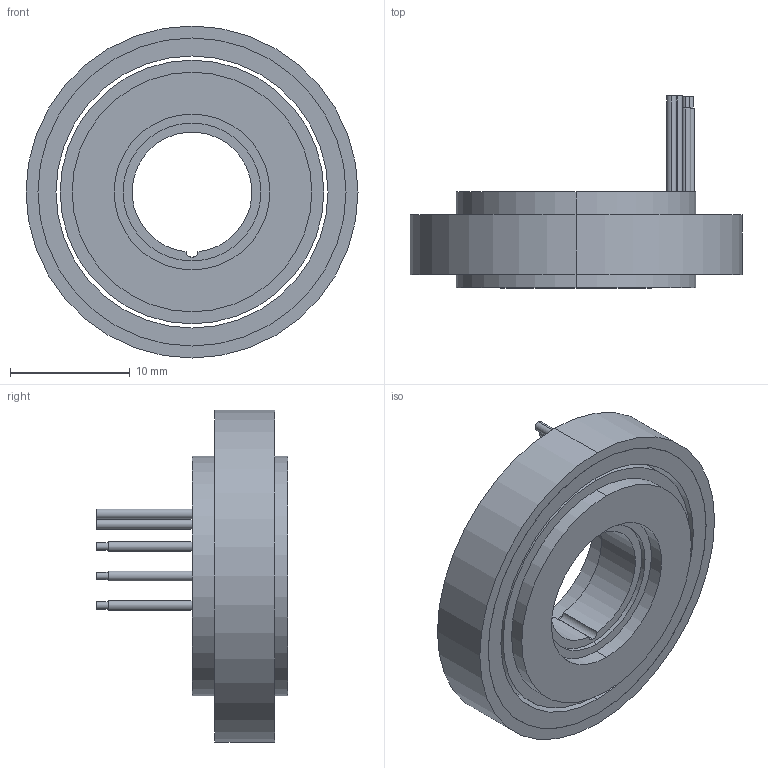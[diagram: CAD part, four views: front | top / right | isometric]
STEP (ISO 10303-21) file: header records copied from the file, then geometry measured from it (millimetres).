
FILE_DESCRIPTION (( 'STEP AP214' ), '1' );
FILE_NAME ('UE2608µç»ú.STEP', '2026-04-09T07:53:07', ( 'Windows User' ), ( 'P R C' ), 'SwSTEP 2.0', 'SolidWorks 2023', '' );
FILE_SCHEMA (( 'AUTOMOTIVE_DESIGN' ));
Length unit declared in the file: millimetre
Products named in the file (1): UE2608电机
Bounding box: 27.7 x 16 x 27.7 mm (x, y, z)
Volume: 3013.3 mm3; surface area: 2709 mm2
Topology: 2 solids, 2 shells, 61 faces, 123 edges, 82 vertices
Faces by surface type: cylinder 41, plane 20
Entity records: 1679 total; most frequent: DIRECTION 329, CARTESIAN_POINT 267, ORIENTED_EDGE 246, AXIS2_PLACEMENT_3D 144, EDGE_CURVE 123, VERTEX_POINT 82, CIRCLE 82, EDGE_LOOP 81
